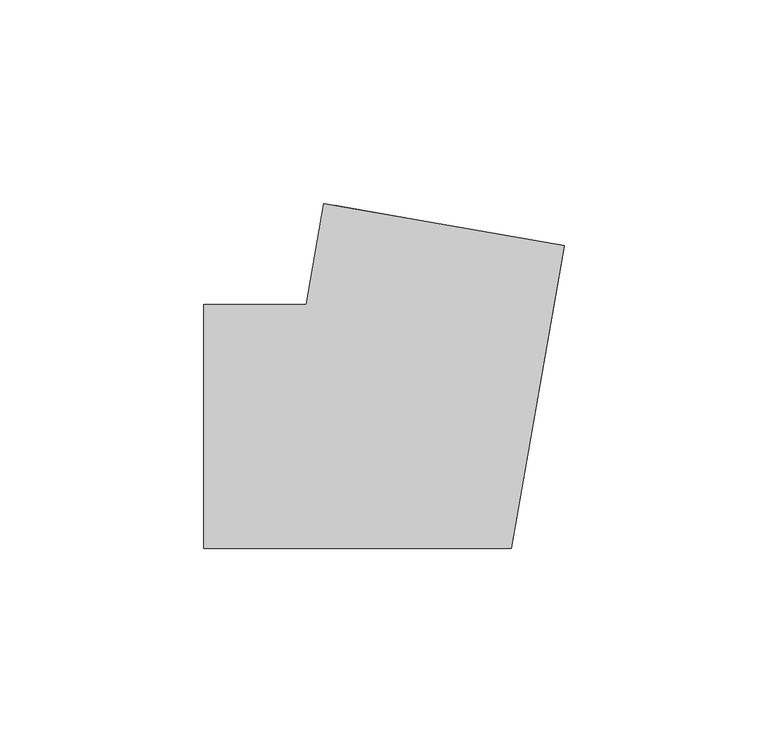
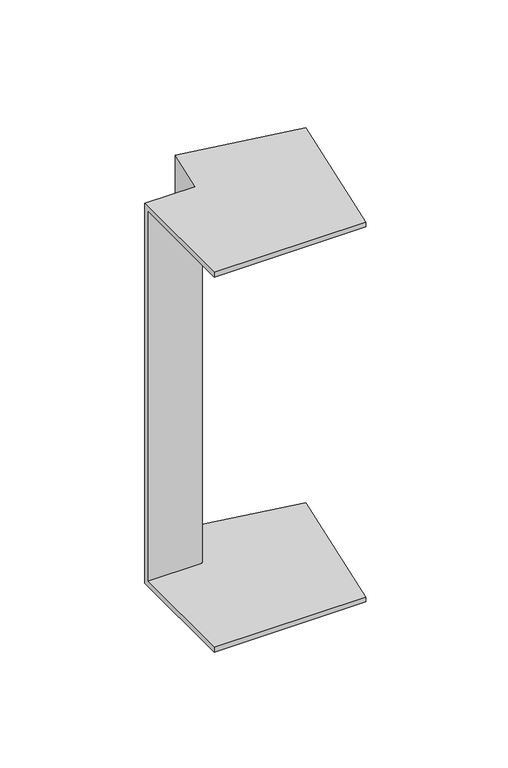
"""IFC4 building model written with IfcOpenShell, lengths in millimetres: cable carrier fitting geometry, КНС_УголВнешний_ILC_DKC : Угол внешний_DKC."""

from ifc_helpers import new_model, si_unit, origin, place, context, project, spatial, faceted_brep, source, transform, mapped, element, save


def cable_carrier_fitting_c69b3609(model_context):
    return source(origin(), model_context, "Body", "Brep", [
        faceted_brep([(-50.3459779, 30.0, 100.0), (-50.3459779, 30.0, -100.0), (-50.3459779, -30.0, -100.0), (-50.3459779, -30.0, -97.5), (-50.3459779, 27.5, -97.5), (-50.3459779, 27.5, 97.5), (-50.3459779, -30.0, 97.5), (-50.3459779, -30.0, 100.0), (-20.8017453, 54.7905547, 100.0), (38.2867199, 44.371664, 100.0), (38.2867199, 44.371664, 97.5), (-18.3397259, 54.3564342, 97.5), (-18.3397259, 54.3564342, -97.5), (38.2867199, 44.371664, -97.5), (38.2867199, 44.371664, -100.0), (-20.8017453, 54.7905547, -100.0), (-25.1729889, 30.0, 100.0), (-25.1729889, 30.0, -100.0), (25.1729889, -30.0, -100.0), (25.1729889, -30.0, -97.5), (-23.0752399, 27.5, -97.5), (-23.0752399, 27.5, 97.5), (25.1729889, -30.0, 97.5), (25.1729889, -30.0, 100.0)], [[[0, 1, 2, 3, 4, 5, 6, 7]], [[8, 9, 10, 11, 12, 13, 14, 15]], [[1, 0, 16, 17]], [[2, 1, 17, 15, 14, 18]], [[3, 2, 18, 19]], [[4, 3, 19, 13, 12, 20]], [[5, 4, 20, 21]], [[6, 5, 21, 11, 10, 22]], [[7, 6, 22, 23]], [[0, 7, 23, 9, 8, 16]], [[17, 16, 8, 15]], [[19, 18, 14, 13]], [[21, 20, 12, 11]], [[23, 22, 10, 9]]]),
    ])


if __name__ == "__main__":
    model = new_model("IFC4")
    model_context = context("Model", 3, world=origin())
    ifc_project = project(units=[si_unit("LENGTHUNIT", "METRE", prefix="MILLI")], contexts=[model_context])
    site = spatial("IfcSite", under=ifc_project)
    building = spatial("IfcBuilding", under=site)
    placement = place(None, origin())
    cable_carrier_fitting_shape = cable_carrier_fitting_c69b3609(model_context)
    element("IfcCableCarrierFitting", 1, ObjectType="КНС_УголВнешний_ILC_DKC : Угол внешний_DKC", at=placement, inside=building, context=model_context, shape_type="MappedRepresentation", body=[
        mapped(cable_carrier_fitting_shape, transform((0.0, 0.0, 0.0), x_axis=(1.0, 0.0, 0.0), y_axis=(0.0, 1.0, 0.0), z_axis=(0.0, 0.0, 1.0))),
    ])
    save(model, "model.ifc")
